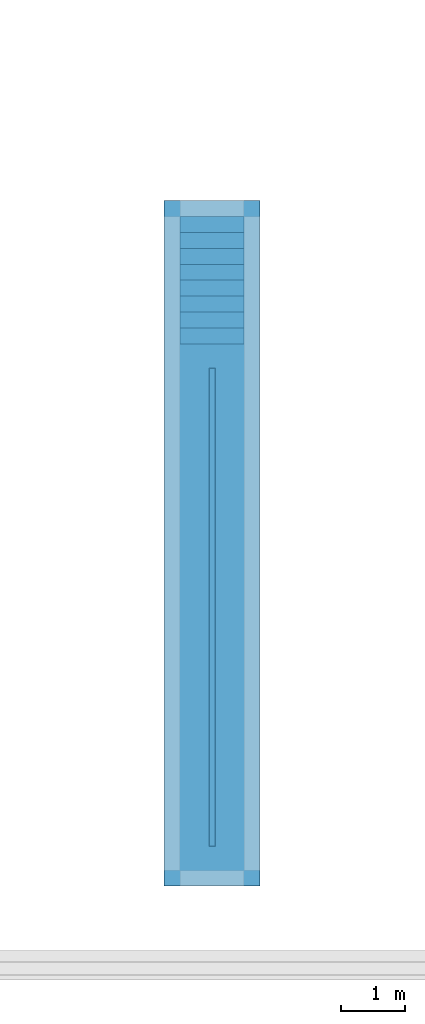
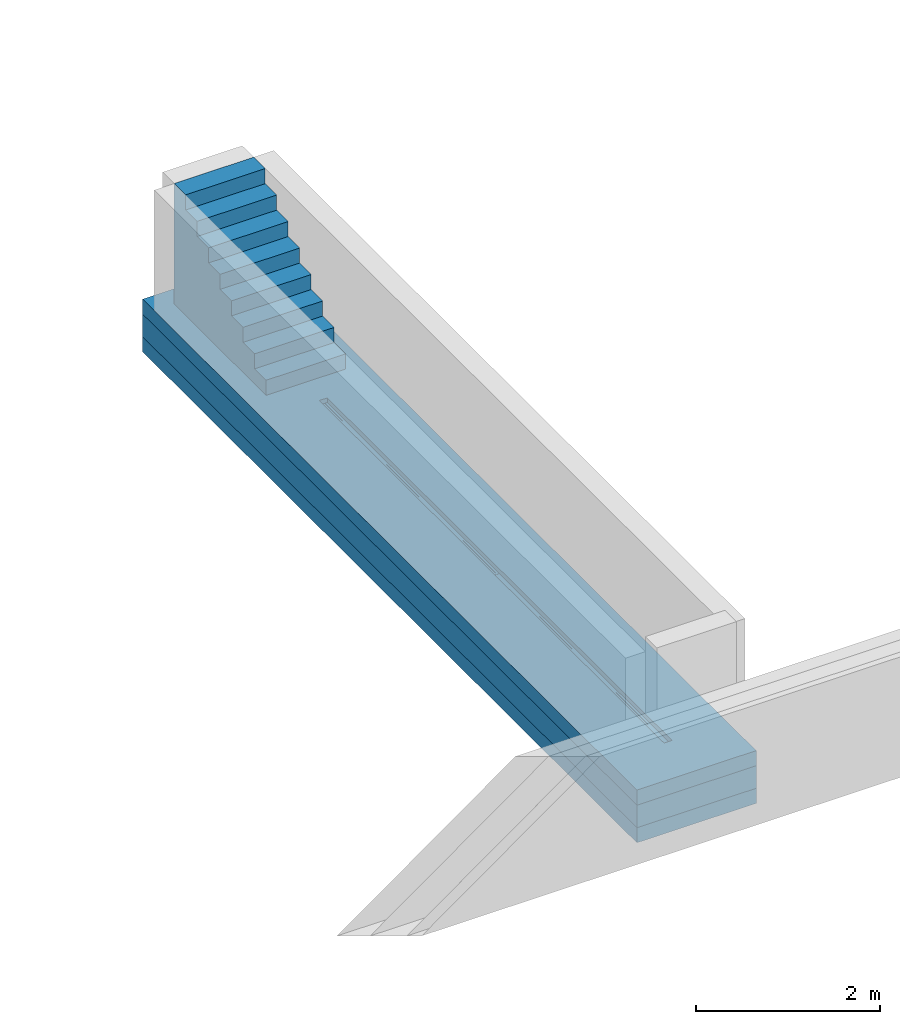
# One storey, part 3 of 3: 3 building element parts, 1 member, 2 elements without a shape of their own.
"""IFC2X3 building model written with IfcOpenShell, lengths in millimetres."""

from ifc_helpers import new_model, entity, si_unit, converted_unit, derived_unit, money_unit, direction, frame, origin_with_axes, place, context, subcontext, project, spatial, polyline, outline, extrude, boolean, faceted_brep, material, type_object, element, aggregate, save


model = new_model("IFC2X3")

# Units and contexts
model_context = context("Model", 3, precision=0.01, world=origin_with_axes(), true_north=direction((0.0, 1.0)))
body_context = subcontext(model_context, "Body", "Model", "MODEL_VIEW")
ifc_project = project(units=[si_unit("LENGTHUNIT", "METRE", prefix="MILLI"), si_unit("AREAUNIT", "SQUARE_METRE"), si_unit("VOLUMEUNIT", "CUBIC_METRE"), converted_unit("PLANEANGLEUNIT", "DEGREE", entity("IfcPlaneAngleMeasure", 0.0174532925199), si_unit("PLANEANGLEUNIT", "RADIAN"), dimensions=[0, 0, 0, 0, 0, 0, 0]), si_unit("SOLIDANGLEUNIT", "STERADIAN"), money_unit("EUR"), converted_unit("TIMEUNIT", "Year", entity("IfcTimeMeasure", 31556926.0), si_unit("TIMEUNIT", "SECOND"), dimensions=[0, 0, 1, 0, 0, 0, 0]), si_unit("MASSUNIT", "GRAM", prefix="KILO"), si_unit("THERMODYNAMICTEMPERATUREUNIT", "DEGREE_CELSIUS"), si_unit("LUMINOUSINTENSITYUNIT", "LUMEN"), si_unit("ENERGYUNIT", "JOULE", prefix="MEGA"), derived_unit("THERMALCONDUCTANCEUNIT", [(si_unit("POWERUNIT", "WATT"), 1), (si_unit("LENGTHUNIT", "METRE"), -1), (si_unit("THERMODYNAMICTEMPERATUREUNIT", "KELVIN"), -1)]), derived_unit("SPECIFICHEATCAPACITYUNIT", [(si_unit("ENERGYUNIT", "JOULE"), 1), (si_unit("MASSUNIT", "GRAM", prefix="KILO"), -1), (si_unit("THERMODYNAMICTEMPERATUREUNIT", "KELVIN"), -1)]), derived_unit("MASSDENSITYUNIT", [(si_unit("MASSUNIT", "GRAM", prefix="KILO"), 1), (si_unit("VOLUMEUNIT", "CUBIC_METRE"), -1)])], contexts=[model_context])

# Site, building, storey
site_placement = place(None, origin_with_axes())
site = spatial("IfcSite", under=ifc_project, at=site_placement, Name="Politse- ja Piirivalveameti ning Päästeameti ühishoone", CompositionType="ELEMENT")
building_placement = place(site_placement, origin_with_axes())
building = spatial("IfcBuilding", under=site, at=building_placement, Name="Politse- ja Piirivalveameti ning Päästeameti ühishoone", CompositionType="ELEMENT")
storey_placement = place(building_placement, frame((0.0, 0.0, -4000.0), z_axis=(0.0, 0.0, 1.0), x_axis=(1.0, 0.0, 0.0)))
storey = spatial("IfcBuildingStorey", under=building, at=storey_placement, Name="Vundament", CompositionType="ELEMENT", Elevation=-4000.0)

# Stair, member
stair_placement = place(storey_placement, frame((29259.7054661, 10110.2911514, 2200.46188572), z_axis=(0.0, 0.0, 1.0), x_axis=(0.0, 1.0, 0.0)))
stair = element("IfcStair", 1, at=stair_placement, inside=storey, Name="TREPP 1", ShapeType="NOTDEFINED")
ifc_material_1 = material(Name="KON-04_Betoon - Konstuktsioon")
member_type = type_object("IfcMemberType", Name="IfcMember", PredefinedType="USERDEFINED")
member_placement = place(stair_placement, origin_with_axes())
member = element("IfcMember", 2, at=member_placement, type_object=member_type, material=ifc_material_1, Name="TREPP 04", ObjectType="Stair Structure", context=body_context, shape_type="Brep", body=[
    faceted_brep([(1150.0, 0.0, 1400.0), (900.0, 0.0, 1400.0), (900.0, -1000.0, 1400.0), (1150.0, -1000.0, 1400.0), (1150.0, 0.0, 1600.0), (1400.0, 0.0, 1600.0), (1400.0, 0.0, 0.0), (-600.0, 0.0, 0.0), (-600.0, 0.0, 200.0), (-350.0, 0.0, 200.0), (-350.0, 0.0, 400.0), (-100.0, 0.0, 400.0), (-100.0, 0.0, 600.0), (150.0, 0.0, 600.0), (150.0, 0.0, 800.0), (400.0, 0.0, 800.0), (400.0, 0.0, 1000.0), (650.0, 0.0, 1000.0), (650.0, 0.0, 1200.0), (900.0, 0.0, 1200.0), (900.0, -1000.0, 1200.0), (-600.0, -1000.0, 0.0), (1400.0, -1000.0, 0.0), (1400.0, -1000.0, 1600.0), (1150.0, -1000.0, 1600.0), (650.0, -1000.0, 1200.0), (650.0, -1000.0, 1000.0), (400.0, -1000.0, 1000.0), (400.0, -1000.0, 800.0), (150.0, -1000.0, 800.0), (150.0, -1000.0, 600.0), (-100.0, -1000.0, 600.0), (-100.0, -1000.0, 400.0), (-350.0, -1000.0, 400.0), (-350.0, -1000.0, 200.0), (-600.0, -1000.0, 200.0)], [[[0, 1, 2, 3]], [[0, 4, 5, 6, 7, 8, 9, 10, 11, 12, 13, 14, 15, 16, 17, 18, 19, 1]], [[20, 2, 1, 19]], [[21, 22, 23, 24, 3, 2, 20, 25, 26, 27, 28, 29, 30, 31, 32, 33, 34, 35]], [[3, 24, 4, 0]], [[23, 5, 4, 24]], [[5, 23, 22, 6]], [[22, 21, 7, 6]], [[35, 8, 7, 21]], [[9, 8, 35, 34]], [[34, 33, 10, 9]], [[11, 10, 33, 32]], [[32, 31, 12, 11]], [[13, 12, 31, 30]], [[30, 29, 14, 13]], [[15, 14, 29, 28]], [[28, 27, 16, 15]], [[17, 16, 27, 26]], [[26, 25, 18, 17]], [[19, 18, 25, 20]]]),
])
aggregate(stair, [member])

# Slab, building element parts
slab_type = type_object("IfcSlabType", Name="PP-03_remondikanali põrand 700", PredefinedType="NOTDEFINED")
slab_placement = place(storey_placement, frame((29009.7054661, 1010.2911514, 2200.46188572), z_axis=(0.0, 0.0, 1.0), x_axis=(1.0, 0.0, 0.0)))
slab = element("IfcSlab", 3, at=slab_placement, inside=storey, type_object=slab_type, Name="PP-03", PredefinedType="NOTDEFINED")
ifc_material_2 = material(Name="VKK-03_Kruus")
building_element_part_1_placement = place(slab_placement, origin_with_axes())
building_element_part_1 = element("IfcBuildingElementPart", 4, at=building_element_part_1_placement, material=ifc_material_2, Name="VKK-03_Kruus", context=body_context, shape_type="CSG", body=[
    boolean("DIFFERENCE", boolean("DIFFERENCE", extrude(outline(polyline([(0.0, 0.0), (1500.0, 0.0), (1500.0, 10750.0), (0.0, 10750.0), (0.0, 0.0)])), frame((0.0, 0.0, -700.0), z_axis=(0.0, 0.0, 1.0), x_axis=(1.0, 0.0, 0.0)), (0.0, 0.0, 1.0), 200.0), faceted_brep([(702.234006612, 625.0, 0.0), (802.23398426, 625.0, 0.0), (802.234006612, 8125.0, 0.0), (702.234006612, 8125.0, 0.0), (702.234006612, 625.0, -100.0), (802.23398426, 625.0, -100.0), (802.234006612, 8125.0, -100.0), (702.234006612, 8125.0, -100.0), (707.234006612, 8120.0, -100.0), (707.234006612, 4376.0, -100.0), (707.234006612, 4374.0, -100.0), (707.23398426, 629.999977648, -100.0), (735.400673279, 630.0, -100.0), (737.400673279, 630.0, -100.0), (767.067339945, 630.0, -100.0), (769.067339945, 630.0, -100.0), (797.234006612, 629.999977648, -100.0), (797.234006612, 4374.0, -100.0), (797.234006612, 4376.0, -100.0), (797.234006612, 8120.0, -100.0), (769.067387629, 8120.0, -100.0), (769.067339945, 4376.0, -100.0), (769.067339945, 4374.0, -100.0), (767.067339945, 4374.0, -100.0), (767.067339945, 4376.0, -100.0), (767.067339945, 8120.0, -100.0), (737.400720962, 8120.0, -100.0), (737.400673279, 4376.0, -100.0), (737.400673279, 4374.0, -100.0), (735.400673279, 4374.0, -100.0), (735.400673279, 4376.0, -100.0), (735.400673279, 8120.0, -100.0), (707.234006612, 8120.0, -56.35), (707.234006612, 4376.0, -56.35), (707.234006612, 4374.0, -56.35), (707.23398426, 629.999977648, -56.35), (735.400673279, 630.0, -56.35), (737.400673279, 630.0, -56.35), (767.067339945, 630.0, -56.35), (769.067339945, 630.0, -56.35), (797.234006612, 629.999977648, -56.35), (797.234006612, 4374.0, -56.35), (797.234006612, 4376.0, -56.35), (797.234006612, 8120.0, -56.35), (769.067387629, 8120.0, -56.35), (769.067339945, 4376.0, -56.35), (769.067339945, 4374.0, -56.35), (767.067339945, 4374.0, -56.35), (767.067339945, 4376.0, -56.35), (767.067339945, 8120.0, -56.35), (737.400720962, 8120.0, -56.35), (737.400673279, 4376.0, -56.35), (737.400673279, 4374.0, -56.35), (735.400673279, 4374.0, -56.35), (735.400673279, 4376.0, -56.35), (735.400673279, 8120.0, -56.35)], [[[0, 1, 2, 3]], [[1, 0, 4, 5]], [[2, 1, 5, 6]], [[3, 2, 6, 7]], [[0, 3, 7, 4]], [[7, 8, 9, 10, 11, 12, 13, 14, 15, 16, 17, 18, 19, 6, 5, 4]], [[8, 7, 6, 19, 20, 21, 22, 15, 14, 23, 24, 25, 26, 27, 28, 13, 12, 29, 30, 31]], [[9, 8, 32, 33]], [[29, 10, 9, 30]], [[11, 10, 34, 35]], [[12, 11, 35, 36]], [[14, 13, 37, 38]], [[16, 15, 39, 40]], [[17, 16, 40, 41]], [[17, 22, 21, 18]], [[19, 18, 42, 43]], [[43, 44, 20, 19]], [[21, 20, 44, 45]], [[46, 39, 15, 22]], [[38, 47, 23, 14]], [[28, 27, 24, 23]], [[25, 24, 48, 49]], [[49, 50, 26, 25]], [[27, 26, 50, 51]], [[13, 28, 52, 37]], [[36, 53, 29, 12]], [[31, 30, 54, 55]], [[55, 32, 8, 31]], [[55, 54, 33, 32]], [[30, 9, 33, 54]], [[53, 34, 10, 29]], [[36, 35, 34, 53]], [[38, 37, 52, 47]], [[40, 39, 46, 41]], [[41, 46, 22, 17]], [[18, 21, 45, 42]], [[43, 42, 45, 44]], [[47, 52, 28, 23]], [[24, 27, 51, 48]], [[48, 51, 50, 49]]])), faceted_brep([(1500.0, 250.0, -5.76853151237), (1500.0, 10500.0, -5.76853151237), (1500.0, 10500.0, 0.0), (1500.0, 250.0, 0.0), (1250.0, 250.0, -5.76853151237), (1250.0, 10500.0, -5.76853151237), (1250.0, 10500.0, 0.0), (1250.0, 250.0, 0.0)], [[[0, 1, 2, 3]], [[1, 0, 4, 5]], [[6, 2, 1, 5]], [[7, 3, 2, 6]], [[0, 3, 7, 4]], [[7, 6, 5, 4]]])),
])
ifc_material_3 = material(Name="SOJ-02_Soojustus - Fiiber Kõva")
building_element_part_2_placement = place(slab_placement, origin_with_axes())
building_element_part_2 = element("IfcBuildingElementPart", 5, at=building_element_part_2_placement, material=ifc_material_3, Name="SOJ-02_Soojustus - Fiiber Kõva", context=body_context, shape_type="CSG", body=[
    boolean("DIFFERENCE", boolean("DIFFERENCE", extrude(outline(polyline([(0.0, 0.0), (1500.0, 0.0), (1500.0, 10750.0), (0.0, 10750.0), (0.0, 0.0)])), frame((0.0, 0.0, -500.0), z_axis=(0.0, 0.0, 1.0), x_axis=(1.0, 0.0, 0.0)), (0.0, 0.0, 1.0), 300.0), faceted_brep([(702.234006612, 625.0, 0.0), (802.23398426, 625.0, 0.0), (802.234006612, 8125.0, 0.0), (702.234006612, 8125.0, 0.0), (702.234006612, 625.0, -100.0), (802.23398426, 625.0, -100.0), (802.234006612, 8125.0, -100.0), (702.234006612, 8125.0, -100.0), (707.234006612, 8120.0, -100.0), (707.234006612, 4376.0, -100.0), (707.234006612, 4374.0, -100.0), (707.23398426, 629.999977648, -100.0), (735.400673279, 630.0, -100.0), (737.400673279, 630.0, -100.0), (767.067339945, 630.0, -100.0), (769.067339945, 630.0, -100.0), (797.234006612, 629.999977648, -100.0), (797.234006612, 4374.0, -100.0), (797.234006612, 4376.0, -100.0), (797.234006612, 8120.0, -100.0), (769.067387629, 8120.0, -100.0), (769.067339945, 4376.0, -100.0), (769.067339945, 4374.0, -100.0), (767.067339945, 4374.0, -100.0), (767.067339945, 4376.0, -100.0), (767.067339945, 8120.0, -100.0), (737.400720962, 8120.0, -100.0), (737.400673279, 4376.0, -100.0), (737.400673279, 4374.0, -100.0), (735.400673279, 4374.0, -100.0), (735.400673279, 4376.0, -100.0), (735.400673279, 8120.0, -100.0), (707.234006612, 8120.0, -56.35), (707.234006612, 4376.0, -56.35), (707.234006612, 4374.0, -56.35), (707.23398426, 629.999977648, -56.35), (735.400673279, 630.0, -56.35), (737.400673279, 630.0, -56.35), (767.067339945, 630.0, -56.35), (769.067339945, 630.0, -56.35), (797.234006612, 629.999977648, -56.35), (797.234006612, 4374.0, -56.35), (797.234006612, 4376.0, -56.35), (797.234006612, 8120.0, -56.35), (769.067387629, 8120.0, -56.35), (769.067339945, 4376.0, -56.35), (769.067339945, 4374.0, -56.35), (767.067339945, 4374.0, -56.35), (767.067339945, 4376.0, -56.35), (767.067339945, 8120.0, -56.35), (737.400720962, 8120.0, -56.35), (737.400673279, 4376.0, -56.35), (737.400673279, 4374.0, -56.35), (735.400673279, 4374.0, -56.35), (735.400673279, 4376.0, -56.35), (735.400673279, 8120.0, -56.35)], [[[0, 1, 2, 3]], [[1, 0, 4, 5]], [[2, 1, 5, 6]], [[3, 2, 6, 7]], [[0, 3, 7, 4]], [[7, 8, 9, 10, 11, 12, 13, 14, 15, 16, 17, 18, 19, 6, 5, 4]], [[8, 7, 6, 19, 20, 21, 22, 15, 14, 23, 24, 25, 26, 27, 28, 13, 12, 29, 30, 31]], [[9, 8, 32, 33]], [[29, 10, 9, 30]], [[11, 10, 34, 35]], [[12, 11, 35, 36]], [[14, 13, 37, 38]], [[16, 15, 39, 40]], [[17, 16, 40, 41]], [[17, 22, 21, 18]], [[19, 18, 42, 43]], [[43, 44, 20, 19]], [[21, 20, 44, 45]], [[46, 39, 15, 22]], [[38, 47, 23, 14]], [[28, 27, 24, 23]], [[25, 24, 48, 49]], [[49, 50, 26, 25]], [[27, 26, 50, 51]], [[13, 28, 52, 37]], [[36, 53, 29, 12]], [[31, 30, 54, 55]], [[55, 32, 8, 31]], [[55, 54, 33, 32]], [[30, 9, 33, 54]], [[53, 34, 10, 29]], [[36, 35, 34, 53]], [[38, 37, 52, 47]], [[40, 39, 46, 41]], [[41, 46, 22, 17]], [[18, 21, 45, 42]], [[43, 42, 45, 44]], [[47, 52, 28, 23]], [[24, 27, 51, 48]], [[48, 51, 50, 49]]])), faceted_brep([(1500.0, 250.0, -5.76853151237), (1500.0, 10500.0, -5.76853151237), (1500.0, 10500.0, 0.0), (1500.0, 250.0, 0.0), (1250.0, 250.0, -5.76853151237), (1250.0, 10500.0, -5.76853151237), (1250.0, 10500.0, 0.0), (1250.0, 250.0, 0.0)], [[[0, 1, 2, 3]], [[1, 0, 4, 5]], [[6, 2, 1, 5]], [[7, 3, 2, 6]], [[0, 3, 7, 4]], [[7, 6, 5, 4]]])),
])
ifc_material_4 = material(Name="VKR-01_Betoon")
building_element_part_3_placement = place(slab_placement, origin_with_axes())
building_element_part_3 = element("IfcBuildingElementPart", 6, at=building_element_part_3_placement, material=ifc_material_4, Name="VKR-01_Betoon", context=body_context, shape_type="CSG", body=[
    boolean("DIFFERENCE", boolean("DIFFERENCE", extrude(outline(polyline([(0.0, 0.0), (1500.0, 0.0), (1500.0, 10750.0), (0.0, 10750.0), (0.0, 0.0)])), frame((0.0, 0.0, -200.0), z_axis=(0.0, 0.0, 1.0), x_axis=(1.0, 0.0, 0.0)), (0.0, 0.0, 1.0), 200.0), faceted_brep([(702.234006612, 625.0, 0.0), (802.23398426, 625.0, 0.0), (802.234006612, 8125.0, 0.0), (702.234006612, 8125.0, 0.0), (702.234006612, 625.0, -100.0), (802.23398426, 625.0, -100.0), (802.234006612, 8125.0, -100.0), (702.234006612, 8125.0, -100.0), (707.234006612, 8120.0, -100.0), (707.234006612, 4376.0, -100.0), (707.234006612, 4374.0, -100.0), (707.23398426, 629.999977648, -100.0), (735.400673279, 630.0, -100.0), (737.400673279, 630.0, -100.0), (767.067339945, 630.0, -100.0), (769.067339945, 630.0, -100.0), (797.234006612, 629.999977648, -100.0), (797.234006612, 4374.0, -100.0), (797.234006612, 4376.0, -100.0), (797.234006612, 8120.0, -100.0), (769.067387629, 8120.0, -100.0), (769.067339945, 4376.0, -100.0), (769.067339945, 4374.0, -100.0), (767.067339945, 4374.0, -100.0), (767.067339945, 4376.0, -100.0), (767.067339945, 8120.0, -100.0), (737.400720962, 8120.0, -100.0), (737.400673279, 4376.0, -100.0), (737.400673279, 4374.0, -100.0), (735.400673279, 4374.0, -100.0), (735.400673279, 4376.0, -100.0), (735.400673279, 8120.0, -100.0), (707.234006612, 8120.0, -56.35), (707.234006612, 4376.0, -56.35), (707.234006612, 4374.0, -56.35), (707.23398426, 629.999977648, -56.35), (735.400673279, 630.0, -56.35), (737.400673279, 630.0, -56.35), (767.067339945, 630.0, -56.35), (769.067339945, 630.0, -56.35), (797.234006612, 629.999977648, -56.35), (797.234006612, 4374.0, -56.35), (797.234006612, 4376.0, -56.35), (797.234006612, 8120.0, -56.35), (769.067387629, 8120.0, -56.35), (769.067339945, 4376.0, -56.35), (769.067339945, 4374.0, -56.35), (767.067339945, 4374.0, -56.35), (767.067339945, 4376.0, -56.35), (767.067339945, 8120.0, -56.35), (737.400720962, 8120.0, -56.35), (737.400673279, 4376.0, -56.35), (737.400673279, 4374.0, -56.35), (735.400673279, 4374.0, -56.35), (735.400673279, 4376.0, -56.35), (735.400673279, 8120.0, -56.35)], [[[0, 1, 2, 3]], [[1, 0, 4, 5]], [[2, 1, 5, 6]], [[3, 2, 6, 7]], [[0, 3, 7, 4]], [[7, 8, 9, 10, 11, 12, 13, 14, 15, 16, 17, 18, 19, 6, 5, 4]], [[8, 7, 6, 19, 20, 21, 22, 15, 14, 23, 24, 25, 26, 27, 28, 13, 12, 29, 30, 31]], [[9, 8, 32, 33]], [[29, 10, 9, 30]], [[11, 10, 34, 35]], [[12, 11, 35, 36]], [[14, 13, 37, 38]], [[16, 15, 39, 40]], [[17, 16, 40, 41]], [[17, 22, 21, 18]], [[19, 18, 42, 43]], [[43, 44, 20, 19]], [[21, 20, 44, 45]], [[46, 39, 15, 22]], [[38, 47, 23, 14]], [[28, 27, 24, 23]], [[25, 24, 48, 49]], [[49, 50, 26, 25]], [[27, 26, 50, 51]], [[13, 28, 52, 37]], [[36, 53, 29, 12]], [[31, 30, 54, 55]], [[55, 32, 8, 31]], [[55, 54, 33, 32]], [[30, 9, 33, 54]], [[53, 34, 10, 29]], [[36, 35, 34, 53]], [[38, 37, 52, 47]], [[40, 39, 46, 41]], [[41, 46, 22, 17]], [[18, 21, 45, 42]], [[43, 42, 45, 44]], [[47, 52, 28, 23]], [[24, 27, 51, 48]], [[48, 51, 50, 49]]])), faceted_brep([(1500.0, 250.0, -5.76853151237), (1500.0, 10500.0, -5.76853151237), (1500.0, 10500.0, 0.0), (1500.0, 250.0, 0.0), (1250.0, 250.0, -5.76853151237), (1250.0, 10500.0, -5.76853151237), (1250.0, 10500.0, 0.0), (1250.0, 250.0, 0.0)], [[[0, 1, 2, 3]], [[1, 0, 4, 5]], [[6, 2, 1, 5]], [[7, 3, 2, 6]], [[0, 3, 7, 4]], [[7, 6, 5, 4]]])),
])
aggregate(slab, [building_element_part_1, building_element_part_2, building_element_part_3])

save(model, "model.ifc")
